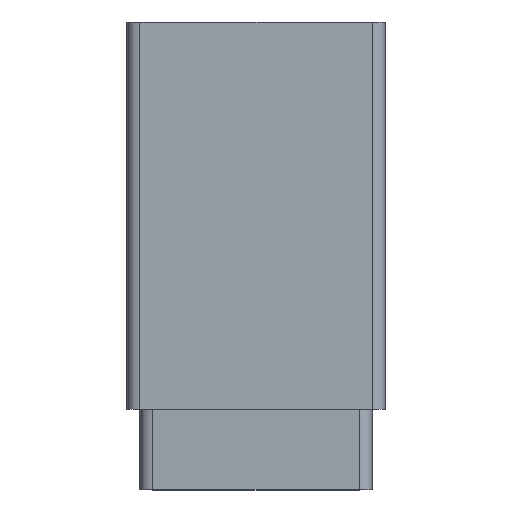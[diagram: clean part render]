
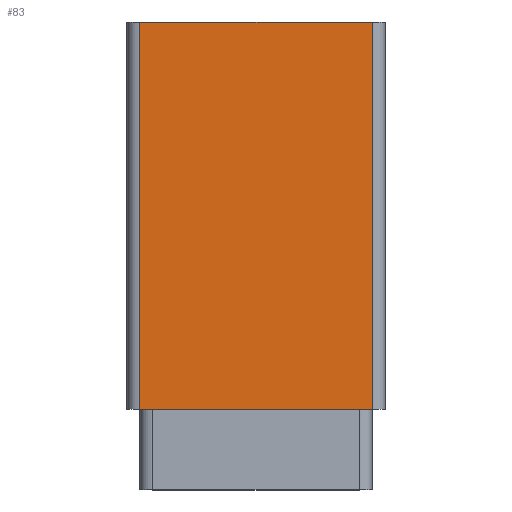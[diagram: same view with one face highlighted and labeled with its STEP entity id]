
A CAD part, top view. The second image highlights one B-rep face of the part: STEP entity #83.
In plain terms, the highlighted planar face has unit normal (0, 0, 1).
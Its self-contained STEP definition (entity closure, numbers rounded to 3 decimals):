
#6 = CARTESIAN_POINT ( 'NONE',  ( 40., 120., 22.5 ) ) ;
#15 = DIRECTION ( 'NONE',  ( 0., 1., 0. ) ) ;
#48 = CARTESIAN_POINT ( 'NONE',  ( 40., 120., 22.5 ) ) ;
#57 = VERTEX_POINT ( 'NONE', #375 ) ;
#78 = CARTESIAN_POINT ( 'NONE',  ( 40., 0., 22.5 ) ) ;
#83 = ADVANCED_FACE ( 'NONE', ( #386 ), #499, .F. ) ;
#110 = DIRECTION ( 'NONE',  ( 1., 0., 0. ) ) ;
#165 = ORIENTED_EDGE ( 'NONE', *, *, #893, .T. ) ;
#168 = AXIS2_PLACEMENT_3D ( 'NONE', #6, #364, #209 ) ;
#207 = VERTEX_POINT ( 'NONE', #568 ) ;
#209 = DIRECTION ( 'NONE',  ( -1., 0., 0. ) ) ;
#317 = CARTESIAN_POINT ( 'NONE',  ( 36., 120., 22.5 ) ) ;
#338 = DIRECTION ( 'NONE',  ( 0., -1., 0. ) ) ;
#358 = VERTEX_POINT ( 'NONE', #317 ) ;
#364 = DIRECTION ( 'NONE',  ( 0., 0., -1. ) ) ;
#375 = CARTESIAN_POINT ( 'NONE',  ( -36., 120., 22.5 ) ) ;
#386 = FACE_OUTER_BOUND ( 'NONE', #408, .T. ) ;
#408 = EDGE_LOOP ( 'NONE', ( #538, #500, #700, #165 ) ) ;
#430 = VECTOR ( 'NONE', #110, 1000. ) ;
#443 = CARTESIAN_POINT ( 'NONE',  ( 36., 120., 22.5 ) ) ;
#470 = CARTESIAN_POINT ( 'NONE',  ( -36., 120., 22.5 ) ) ;
#479 = EDGE_CURVE ( 'NONE', #57, #358, #692, .T. ) ;
#499 = PLANE ( 'NONE',  #168 ) ;
#500 = ORIENTED_EDGE ( 'NONE', *, *, #520, .T. ) ;
#509 = DIRECTION ( 'NONE',  ( 1., 0., 0. ) ) ;
#520 = EDGE_CURVE ( 'NONE', #57, #207, #905, .T. ) ;
#538 = ORIENTED_EDGE ( 'NONE', *, *, #479, .F. ) ;
#568 = CARTESIAN_POINT ( 'NONE',  ( -36., 0., 22.5 ) ) ;
#574 = VERTEX_POINT ( 'NONE', #607 ) ;
#597 = VECTOR ( 'NONE', #338, 1000. ) ;
#607 = CARTESIAN_POINT ( 'NONE',  ( 36., 0., 22.5 ) ) ;
#658 = VECTOR ( 'NONE', #15, 1000. ) ;
#692 = LINE ( 'NONE', #48, #430 ) ;
#700 = ORIENTED_EDGE ( 'NONE', *, *, #806, .T. ) ;
#707 = LINE ( 'NONE', #78, #875 ) ;
#806 = EDGE_CURVE ( 'NONE', #207, #574, #707, .T. ) ;
#851 = LINE ( 'NONE', #443, #658 ) ;
#875 = VECTOR ( 'NONE', #509, 1000. ) ;
#893 = EDGE_CURVE ( 'NONE', #574, #358, #851, .T. ) ;
#905 = LINE ( 'NONE', #470, #597 ) ;
